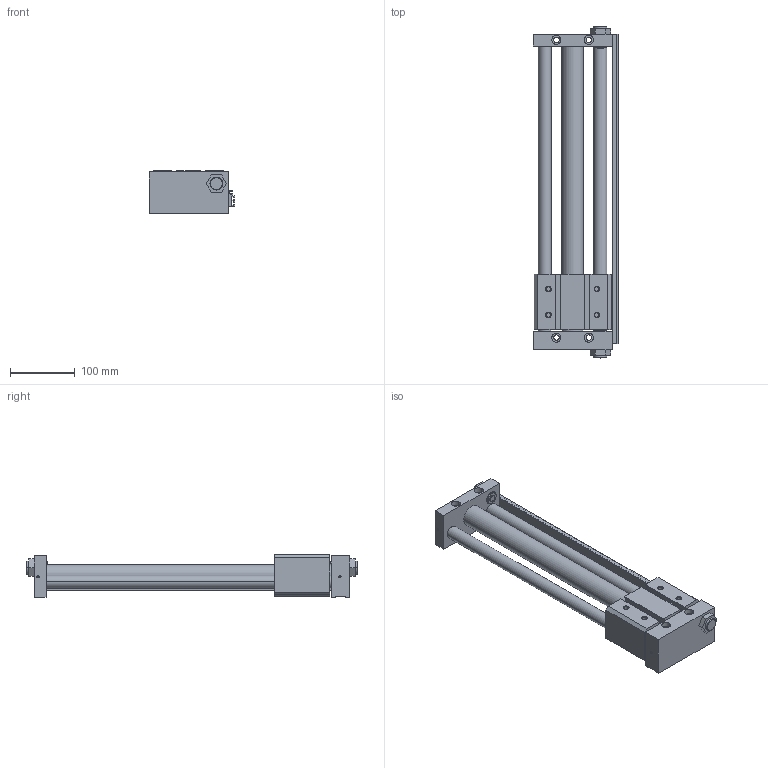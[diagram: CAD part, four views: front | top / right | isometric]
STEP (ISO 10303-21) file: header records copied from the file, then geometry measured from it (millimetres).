
FILE_DESCRIPTION((''),'2;1');
FILE_NAME('C:\Documents and Settings\Administrator\桌面\GYS\GYS32\GYSR32X350.stp','2012-03-06T20:18:11',('Administrator'),(''),'Autodesk Inventor 8','Autodesk Inventor 8','');
FILE_SCHEMA(('AUTOMOTIVE_DESIGN { 1 0 10303 214 1 1 1 1 }'));
Length unit declared in the file: millimetre
Products named in the file (3): GYSR32X350; GYS32X350; GYS32160X350
Assembly tree (2 placements, depth 2):
  GYSR32X350
    GYS32X350
    GYS32160X350
Bounding box: 132.5 x 513 x 66 mm (x, y, z)
Volume: 1570525.7 mm3; surface area: 242142.3 mm2
Topology: 2 solids, 2 shells, 291 faces, 770 edges, 504 vertices
Faces by surface type: plane 161, cylinder 96, cone 28, bspline 6
Entity records: 9200 total; most frequent: CARTESIAN_POINT 1644, DIRECTION 1598, ORIENTED_EDGE 1540, EDGE_CURVE 770, AXIS2_PLACEMENT_3D 538, VECTOR 522, LINE 522, VERTEX_POINT 504
